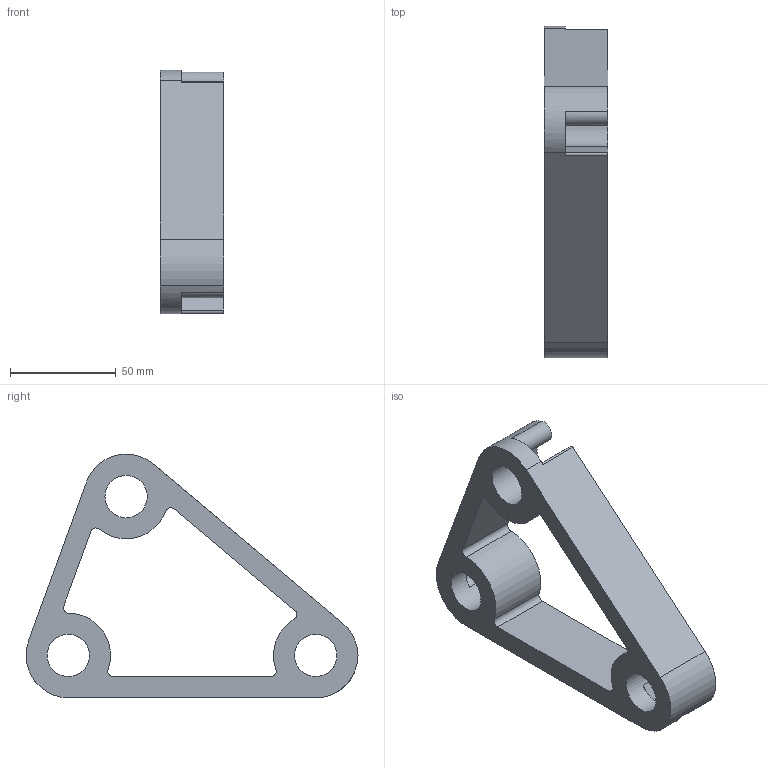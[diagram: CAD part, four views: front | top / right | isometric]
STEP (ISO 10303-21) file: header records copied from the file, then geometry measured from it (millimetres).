
FILE_DESCRIPTION(('HOOPS Exchange Step'),'2;1');
FILE_NAME('/private/var/mobile/Containers/Data/Application/E34E9B9D-13F5-4398-A6D4-3D2E6F602CF2/tmp/export/temp_export','2023-02-19T17:31:09-06:00',('mobile'),('Shapr3D Limited'),'HOOPS Exchange 2022.2','Shapr3D','Authorized');
FILE_SCHEMA( ('AUTOMOTIVE_DESIGN { 1 0 10303 214 1 1 1 1 }') );
Length unit declared in the file: millimetre
Products named in the file (1): root
Bounding box: 30 x 157.05 x 115.21 mm (x, y, z)
Volume: 148356.6 mm3; surface area: 38303 mm2
Topology: 1 solids, 1 shells, 40 faces, 126 edges, 85 vertices
Faces by surface type: cylinder 24, plane 14, bspline 2
Full cylindrical faces by diameter (mm): 20 x3
Entity records: 1480 total; most frequent: CARTESIAN_POINT 278, DIRECTION 260, ORIENTED_EDGE 252, EDGE_CURVE 126, AXIS2_PLACEMENT_3D 99, VERTEX_POINT 85, VECTOR 62, LINE 62
